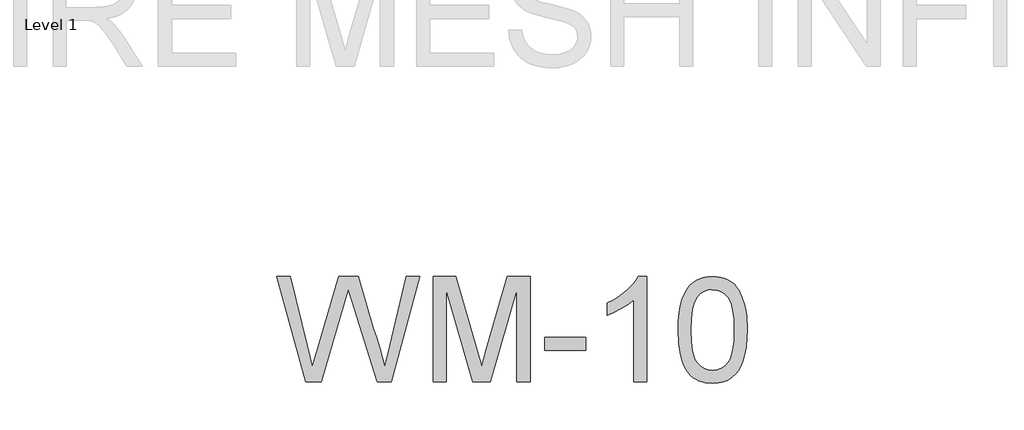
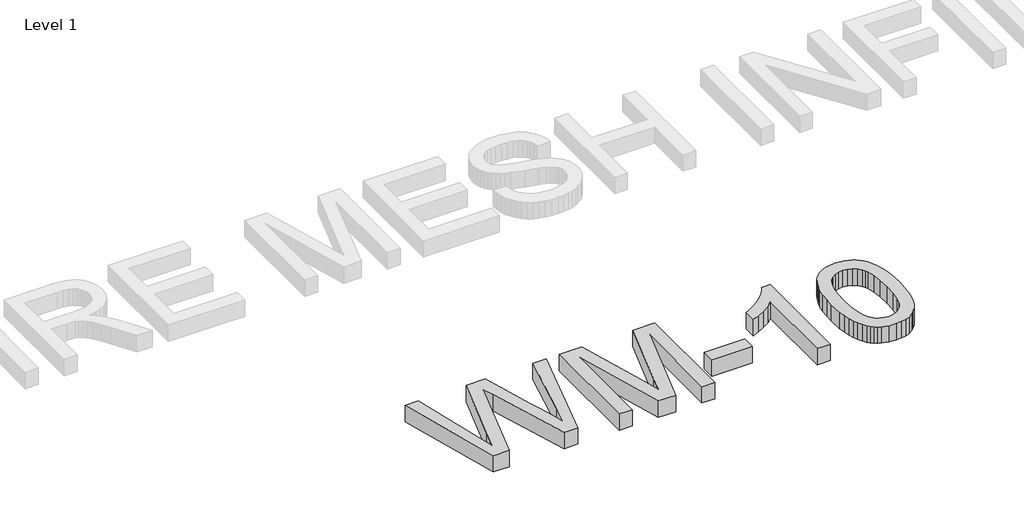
# One storey, part 3 of 8: 1 proxy.
"""IFC4 building model written with IfcOpenShell, lengths in millimetres."""

from ifc_helpers import new_model, si_unit, origin, place, context, project, spatial, faceted_brep, element, save

model = new_model("IFC4")

# Units and contexts
model_context = context("Model", 3, world=origin())
ifc_project = project(units=[si_unit("LENGTHUNIT", "METRE", prefix="MILLI")], contexts=[model_context])

# Site, building, storey
site = spatial("IfcSite", under=ifc_project)
building = spatial("IfcBuilding", under=site)
storey = spatial("IfcBuildingStorey", under=building, Name="Level 1", Elevation=0.0)

# Proxy
placement = place(None, origin())
element("IfcBuildingElementProxy", 1, Name="36\" Arial", ObjectType="36\" Arial", at=placement, inside=storey, context=model_context, shape_type="Brep", body=[
    faceted_brep([(14703.4402285, -20037.2054696, 152.4), (14841.2984786, -20037.2054696, 152.4), (15040.9475625, -19352.3756511, 152.4), (15075.3005892, -19233.9246304, 152.4), (15105.8613987, -19332.2992069, 152.4), (15324.917712, -20037.2054696, 152.4), (15446.9378783, -20037.2054696, 152.4), (15696.3319295, -19123.5041874, 152.4), (15578.5501236, -19123.5041874, 152.4), (15432.6612958, -19729.3666587, 152.4), (15389.385405, -19909.3854416, 152.4), (15370.4661447, -19825.4547513, 152.4), (15347.8383191, -19741.6355968, 152.4), (15321.5019281, -19657.9279781, 152.4), (15291.4569717, -19574.3318952, 152.4), (15159.8447264, -19123.5041874, 152.4), (14990.0872372, -19123.5041874, 152.4), (14808.9530963, -19745.427814, 152.4), (14761.2157735, -19909.3854416, 152.4), (14716.6014531, -19724.0129402, 152.4), (14572.0510549, -19123.5041874, 152.4), (14454.269249, -19123.5041874, 152.4), (14703.4402285, -20037.2054696, 0.0), (14454.269249, -19123.5041874, 0.0), (14572.0510549, -19123.5041874, 0.0), (14716.6014531, -19724.0129402, 0.0), (14761.2157735, -19909.3854416, 0.0), (14808.9530963, -19745.427814, 0.0), (14990.0872372, -19123.5041874, 0.0), (15159.8447264, -19123.5041874, 0.0), (15291.4569717, -19574.3318952, 0.0), (15321.5019281, -19657.9279781, 0.0), (15347.8383191, -19741.6355968, 0.0), (15370.4661447, -19825.4547513, 0.0), (15389.385405, -19909.3854416, 0.0), (15432.6612958, -19729.3666587, 0.0), (15578.5501236, -19123.5041874, 0.0), (15696.3319295, -19123.5041874, 0.0), (15446.9378783, -20037.2054696, 0.0), (15324.917712, -20037.2054696, 0.0), (15105.8613987, -19332.2992069, 0.0), (15075.3005892, -19233.9246304, 0.0), (15040.9475625, -19352.3756511, 0.0), (14841.2984786, -20037.2054696, 0.0)], [[[0, 1, 2, 3, 4, 5, 6, 7, 8, 9, 10, 11, 12, 13, 14, 15, 16, 17, 18, 19, 20, 21]], [[22, 23, 24, 25, 26, 27, 28, 29, 30, 31, 32, 33, 34, 35, 36, 37, 38, 39, 40, 41, 42, 43]], [[3, 2, 42, 41]], [[4, 3, 41, 40]], [[5, 4, 40, 39]], [[6, 5, 39, 38]], [[7, 6, 38, 37]], [[8, 7, 37, 36]], [[9, 8, 36, 35]], [[10, 9, 35, 34]], [[11, 10, 34, 33]], [[12, 11, 33, 32]], [[13, 12, 32, 31]], [[14, 13, 31, 30]], [[15, 14, 30, 29]], [[16, 15, 29, 28]], [[17, 16, 28, 27]], [[18, 17, 27, 26]], [[19, 18, 26, 25]], [[20, 19, 25, 24]], [[21, 20, 24, 23]], [[0, 21, 23, 22]], [[1, 0, 22, 43]], [[2, 1, 43, 42]]]),
    faceted_brep([(15810.5445898, -20037.2054696, 152.4), (15924.75725, -20037.2054696, 152.4), (15924.75725, -19237.7168476, 152.4), (16154.2979286, -20037.2054696, 152.4), (16309.1096205, -20037.2054696, 152.4), (16538.650299, -19237.7168476, 152.4), (16538.650299, -20037.2054696, 152.4), (16652.8629593, -20037.2054696, 152.4), (16652.8629593, -19123.5041874, 152.4), (16456.3368778, -19123.5041874, 152.4), (16272.5258777, -19756.3583225, 152.4), (16231.7037745, -19902.0240787, 152.4), (16194.0046738, -19767.5119026, 152.4), (16007.0706712, -19123.5041874, 152.4), (15810.5445898, -19123.5041874, 152.4), (15810.5445898, -20037.2054696, 0.0), (15810.5445898, -19123.5041874, 0.0), (16007.0706712, -19123.5041874, 0.0), (16194.0046738, -19767.5119026, 0.0), (16231.7037745, -19902.0240787, 0.0), (16272.5258777, -19756.3583225, 0.0), (16456.3368778, -19123.5041874, 0.0), (16652.8629593, -19123.5041874, 0.0), (16652.8629593, -20037.2054696, 0.0), (16538.650299, -20037.2054696, 0.0), (16538.650299, -19237.7168476, 0.0), (16309.1096205, -20037.2054696, 0.0), (16154.2979286, -20037.2054696, 0.0), (15924.75725, -19237.7168476, 0.0), (15924.75725, -20037.2054696, 0.0)], [[[0, 1, 2, 3, 4, 5, 6, 7, 8, 9, 10, 11, 12, 13, 14]], [[15, 16, 17, 18, 19, 20, 21, 22, 23, 24, 25, 26, 27, 28, 29]], [[14, 13, 17, 16]], [[0, 14, 16, 15]], [[12, 11, 19, 18]], [[13, 12, 18, 17]], [[1, 0, 15, 29]], [[2, 1, 29, 28]], [[3, 2, 28, 27]], [[4, 3, 27, 26]], [[5, 4, 26, 25]], [[6, 5, 25, 24]], [[7, 6, 24, 23]], [[8, 7, 23, 22]], [[9, 8, 22, 21]], [[10, 9, 21, 20]], [[11, 10, 20, 19]]]),
    faceted_brep([(16781.3522021, -19765.9504014, 152.4), (17138.2667655, -19765.9504014, 152.4), (17138.2667655, -19651.7377411, 152.4), (16781.3522021, -19651.7377411, 152.4), (16781.3522021, -19765.9504014, 0.0), (16781.3522021, -19651.7377411, 0.0), (17138.2667655, -19651.7377411, 0.0), (17138.2667655, -19765.9504014, 0.0)], [[[0, 1, 2, 3]], [[4, 5, 6, 7]], [[1, 0, 4, 7]], [[2, 1, 7, 6]], [[3, 2, 6, 5]], [[0, 3, 5, 4]]]),
    faceted_brep([(17666.5003192, -20037.2054696, 152.4), (17666.5003192, -19123.5041874, 152.4), (17592.8866905, -19123.5041874, 152.4), (17575.3267729, -19153.1866524, 152.4), (17552.5386145, -19183.3431446, 152.4), (17524.5222155, -19213.973664, 152.4), (17491.2775758, -19245.0782105, 152.4), (17453.9200534, -19275.2625867, 152.4), (17413.5650064, -19303.132595, 152.4), (17370.2124347, -19328.6882354, 152.4), (17323.8623384, -19351.9295079, 152.4), (17323.8623384, -19459.8961633, 152.4), (17380.5782932, -19435.8880822, 152.4), (17444.0979319, -19402.2321542, 152.4), (17504.606104, -19363.7244189, 152.4), (17552.287659, -19325.1609157, 152.4), (17552.287659, -20037.2054696, 152.4), (17666.5003192, -20037.2054696, 0.0), (17552.287659, -20037.2054696, 0.0), (17552.287659, -19325.1609157, 0.0), (17504.606104, -19363.7244189, 0.0), (17444.0979319, -19402.2321542, 0.0), (17380.5782932, -19435.8880822, 0.0), (17323.8623384, -19459.8961633, 0.0), (17323.8623384, -19351.9295079, 0.0), (17370.2124347, -19328.6882354, 0.0), (17413.5650064, -19303.132595, 0.0), (17453.9200534, -19275.2625867, 0.0), (17491.2775758, -19245.0782105, 0.0), (17524.5222155, -19213.973664, 0.0), (17552.5386145, -19183.3431446, 0.0), (17575.3267729, -19153.1866524, 0.0), (17592.8866905, -19123.5041874, 0.0), (17666.5003192, -19123.5041874, 0.0)], [[[0, 1, 2, 3, 4, 5, 6, 7, 8, 9, 10, 11, 12, 13, 14, 15, 16]], [[17, 18, 19, 20, 21, 22, 23, 24, 25, 26, 27, 28, 29, 30, 31, 32, 33]], [[1, 0, 17, 33]], [[2, 1, 33, 32]], [[3, 2, 32, 31]], [[4, 3, 31, 30]], [[5, 4, 30, 29]], [[6, 5, 29, 28]], [[7, 6, 28, 27]], [[8, 7, 27, 26]], [[9, 8, 26, 25]], [[10, 9, 25, 24]], [[11, 10, 24, 23]], [[12, 11, 23, 22]], [[13, 12, 22, 21]], [[14, 13, 21, 20]], [[15, 14, 20, 19]], [[16, 15, 19, 18]], [[0, 16, 18, 17]]]),
    faceted_brep([(17937.7553874, -19587.7161913, 152.4), (17943.4437132, -19707.296512, 152.4), (17950.5541206, -19760.7395882, 152.4), (17960.5086908, -19809.9512749, 152.4), (17973.307424, -19854.9315722, 152.4), (17988.9503201, -19895.68048, 152.4), (18007.4373791, -19932.1979984, 152.4), (18028.7686011, -19964.4841273, 152.4), (18048.6219736, -19984.8742659, 152.4), (18070.259919, -20002.5457194, 152.4), (18093.6824373, -20017.4984877, 152.4), (18118.8895283, -20029.7325709, 152.4), (18174.6574288, -20046.0446818, 152.4), (18237.5636206, -20051.4820521, 152.4), (18285.9074194, -20048.3520787, 152.4), (18329.8873799, -20038.9621584, 152.4), (18369.5035023, -20023.3122914, 152.4), (18404.7557864, -20001.4024774, 152.4), (18435.7697101, -19973.1281519, 152.4), (18462.6707511, -19938.3847498, 152.4), (18485.4589094, -19897.1722714, 152.4), (18504.1341851, -19849.4907164, 152.4), (18518.6756652, -19794.9427387, 152.4), (18529.0624367, -19733.130992, 152.4), (18535.2944995, -19664.0554762, 152.4), (18537.3718538, -19587.7161913, 152.4), (18532.1854391, -19466.5604274, 152.4), (18525.7024207, -19416.334462, 152.4), (18516.6261948, -19373.0097743, 152.4), (18492.8690692, -19299.3403777, 152.4), (18463.0890103, -19237.8283834, 152.4), (18445.0341525, -19211.735977, 152.4), (18423.6611047, -19188.8920507, 152.4), (18398.9698667, -19169.2966047, 152.4), (18370.9604387, -19152.9496388, 152.4), (18340.3717452, -19140.0672538, 152.4), (18307.9427111, -19130.8655502, 152.4), (18273.6733362, -19125.3445281, 152.4), (18237.5636206, -19123.5041874, 152.4), (18189.5126033, -19126.6132478, 152.4), (18145.7417724, -19135.9404292, 152.4), (18106.2511278, -19151.4857315, 152.4), (18071.0406697, -19173.2491546, 152.4), (18040.005833, -19201.3770895, 152.4), (18013.0420531, -19236.0159267, 152.4), (17990.1493299, -19277.1656663, 152.4), (17971.3276635, -19324.8263083, 152.4), (17956.6397927, -19379.4439958, 152.4), (17946.1484564, -19441.4648722, 152.4), (17939.8536547, -19510.8889374, 152.4), (18051.9680477, -19587.4931197, 152.4), (18055.4256575, -19490.5685086, 152.4), (18065.798487, -19410.1511961, 152.4), (18083.0865362, -19346.2411821, 152.4), (18094.3237681, -19320.476412, 152.4), (18107.289805, -19298.8384666, 152.4), (18134.2535849, -19272.0977583, 152.4), (18164.7307425, -19252.9972524, 152.4), (18198.7212779, -19241.5369488, 152.4), (18236.225191, -19237.7168476, 152.4), (18275.9598201, -19242.0528019, 152.4), (18311.7349283, -19255.0606647, 152.4), (18343.5505156, -19276.740436, 152.4), (18371.4065819, -19307.0921159, 152.4), (18383.5361002, -19326.6492215, 152.4), (18394.0483495, -19350.6329042, 152.4), (18410.2210406, -19411.880001, 152.4), (18419.9246553, -19490.8334062, 152.4), (18423.1591936, -19587.4931197, 152.4), (18419.8131195, -19686.59965, 152.4), (18409.7748974, -19766.8705718, 152.4), (18393.0445273, -19828.3058852, 152.4), (18382.1697867, -19851.9601887, 152.4), (18369.6220091, -19870.9055902, 152.4), (18341.2919156, -19899.9397534, 152.4), (18309.8388197, -19920.6784414, 152.4), (18275.2627214, -19933.1216542, 152.4), (18237.5636206, -19937.2693918, 152.4), (18199.8645199, -19933.1355962, 152.4), (18165.2884215, -19920.7342093, 152.4), (18133.8353256, -19900.0652312, 152.4), (18105.5052322, -19871.1286618, 152.4), (18092.9574546, -19852.2285718, 152.4), (18082.082714, -19828.5986667, 152.4), (18065.3523438, -19767.1494113, 152.4), (18055.3141217, -19686.7808956, 152.4), (17937.7553874, -19587.7161913, 0.0), (17939.8536547, -19510.8889374, 0.0), (17946.1484564, -19441.4648722, 0.0), (17956.6397927, -19379.4439958, 0.0), (17971.3276635, -19324.8263083, 0.0), (17990.1493299, -19277.1656663, 0.0), (18013.0420531, -19236.0159267, 0.0), (18040.005833, -19201.3770895, 0.0), (18071.0406697, -19173.2491546, 0.0), (18106.2511278, -19151.4857315, 0.0), (18145.7417724, -19135.9404292, 0.0), (18189.5126033, -19126.6132478, 0.0), (18237.5636206, -19123.5041874, 0.0), (18273.6733362, -19125.3445281, 0.0), (18307.9427111, -19130.8655502, 0.0), (18340.3717452, -19140.0672538, 0.0), (18370.9604387, -19152.9496388, 0.0), (18398.9698667, -19169.2966047, 0.0), (18423.6611047, -19188.8920507, 0.0), (18445.0341525, -19211.735977, 0.0), (18463.0890103, -19237.8283834, 0.0), (18492.8690692, -19299.3403777, 0.0), (18516.6261948, -19373.0097743, 0.0), (18525.7024207, -19416.334462, 0.0), (18532.1854391, -19466.5604274, 0.0), (18537.3718538, -19587.7161913, 0.0), (18535.2944995, -19664.0554762, 0.0), (18529.0624367, -19733.130992, 0.0), (18518.6756652, -19794.9427387, 0.0), (18504.1341851, -19849.4907164, 0.0), (18485.4589094, -19897.1722714, 0.0), (18462.6707511, -19938.3847498, 0.0), (18435.7697101, -19973.1281519, 0.0), (18404.7557864, -20001.4024774, 0.0), (18369.5035023, -20023.3122914, 0.0), (18329.8873799, -20038.9621584, 0.0), (18285.9074194, -20048.3520787, 0.0), (18237.5636206, -20051.4820521, 0.0), (18174.6574288, -20046.0446818, 0.0), (18118.8895283, -20029.7325709, 0.0), (18093.6824373, -20017.4984877, 0.0), (18070.259919, -20002.5457194, 0.0), (18048.6219736, -19984.8742659, 0.0), (18028.7686011, -19964.4841273, 0.0), (18007.4373791, -19932.1979984, 0.0), (17988.9503201, -19895.68048, 0.0), (17973.307424, -19854.9315722, 0.0), (17960.5086908, -19809.9512749, 0.0), (17950.5541206, -19760.7395882, 0.0), (17943.4437132, -19707.296512, 0.0), (18051.9680477, -19587.4931197, 0.0), (18055.3141217, -19686.7808956, 0.0), (18065.3523438, -19767.1494113, 0.0), (18082.082714, -19828.5986667, 0.0), (18092.9574546, -19852.2285718, 0.0), (18105.5052322, -19871.1286618, 0.0), (18133.8353256, -19900.0652312, 0.0), (18165.2884215, -19920.7342093, 0.0), (18199.8645199, -19933.1355962, 0.0), (18237.5636206, -19937.2693918, 0.0), (18275.2627214, -19933.1216542, 0.0), (18309.8388197, -19920.6784414, 0.0), (18341.2919156, -19899.9397534, 0.0), (18369.6220091, -19870.9055902, 0.0), (18382.1697867, -19851.9601887, 0.0), (18393.0445273, -19828.3058852, 0.0), (18409.7748974, -19766.8705718, 0.0), (18419.8131195, -19686.59965, 0.0), (18423.1591936, -19587.4931197, 0.0), (18419.9246553, -19490.8334062, 0.0), (18410.2210406, -19411.880001, 0.0), (18394.0483495, -19350.6329042, 0.0), (18383.5361002, -19326.6492215, 0.0), (18371.4065819, -19307.0921159, 0.0), (18343.5505156, -19276.740436, 0.0), (18311.7349283, -19255.0606647, 0.0), (18275.9598201, -19242.0528019, 0.0), (18236.225191, -19237.7168476, 0.0), (18198.7212779, -19241.5369488, 0.0), (18164.7307425, -19252.9972524, 0.0), (18134.2535849, -19272.0977583, 0.0), (18107.289805, -19298.8384666, 0.0), (18094.3237681, -19320.476412, 0.0), (18083.0865362, -19346.2411821, 0.0), (18065.798487, -19410.1511961, 0.0), (18055.4256575, -19490.5685086, 0.0)], [[[0, 1, 2, 3, 4, 5, 6, 7, 8, 9, 10, 11, 12, 13, 14, 15, 16, 17, 18, 19, 20, 21, 22, 23, 24, 25, 26, 27, 28, 29, 30, 31, 32, 33, 34, 35, 36, 37, 38, 39, 40, 41, 42, 43, 44, 45, 46, 47, 48, 49], [50, 51, 52, 53, 54, 55, 56, 57, 58, 59, 60, 61, 62, 63, 64, 65, 66, 67, 68, 69, 70, 71, 72, 73, 74, 75, 76, 77, 78, 79, 80, 81, 82, 83, 84, 85]], [[86, 87, 88, 89, 90, 91, 92, 93, 94, 95, 96, 97, 98, 99, 100, 101, 102, 103, 104, 105, 106, 107, 108, 109, 110, 111, 112, 113, 114, 115, 116, 117, 118, 119, 120, 121, 122, 123, 124, 125, 126, 127, 128, 129, 130, 131, 132, 133, 134, 135], [136, 137, 138, 139, 140, 141, 142, 143, 144, 145, 146, 147, 148, 149, 150, 151, 152, 153, 154, 155, 156, 157, 158, 159, 160, 161, 162, 163, 164, 165, 166, 167, 168, 169, 170, 171]], [[6, 5, 131, 130]], [[7, 6, 130, 129]], [[8, 7, 129, 128]], [[9, 8, 128, 127]], [[10, 9, 127, 126]], [[11, 10, 126, 125]], [[12, 11, 125, 124]], [[13, 12, 124, 123]], [[14, 13, 123, 122]], [[15, 14, 122, 121]], [[16, 15, 121, 120]], [[17, 16, 120, 119]], [[18, 17, 119, 118]], [[19, 18, 118, 117]], [[20, 19, 117, 116]], [[82, 81, 141, 140]], [[83, 82, 140, 139]], [[84, 83, 139, 138]], [[85, 84, 138, 137]], [[50, 85, 137, 136]], [[1, 0, 86, 135]], [[2, 1, 135, 134]], [[3, 2, 134, 133]], [[4, 3, 133, 132]], [[5, 4, 132, 131]], [[21, 20, 116, 115]], [[22, 21, 115, 114]], [[23, 22, 114, 113]], [[24, 23, 113, 112]], [[25, 24, 112, 111]], [[26, 25, 111, 110]], [[27, 26, 110, 109]], [[28, 27, 109, 108]], [[29, 28, 108, 107]], [[30, 29, 107, 106]], [[31, 30, 106, 105]], [[32, 31, 105, 104]], [[33, 32, 104, 103]], [[34, 33, 103, 102]], [[35, 34, 102, 101]], [[36, 35, 101, 100]], [[37, 36, 100, 99]], [[38, 37, 99, 98]], [[39, 38, 98, 97]], [[40, 39, 97, 96]], [[41, 40, 96, 95]], [[42, 41, 95, 94]], [[43, 42, 94, 93]], [[44, 43, 93, 92]], [[45, 44, 92, 91]], [[46, 45, 91, 90]], [[47, 46, 90, 89]], [[48, 47, 89, 88]], [[49, 48, 88, 87]], [[0, 49, 87, 86]], [[51, 50, 136, 171]], [[52, 51, 171, 170]], [[53, 52, 170, 169]], [[54, 53, 169, 168]], [[55, 54, 168, 167]], [[56, 55, 167, 166]], [[57, 56, 166, 165]], [[58, 57, 165, 164]], [[59, 58, 164, 163]], [[60, 59, 163, 162]], [[61, 60, 162, 161]], [[62, 61, 161, 160]], [[63, 62, 160, 159]], [[64, 63, 159, 158]], [[65, 64, 158, 157]], [[66, 65, 157, 156]], [[67, 66, 156, 155]], [[68, 67, 155, 154]], [[69, 68, 154, 153]], [[70, 69, 153, 152]], [[71, 70, 152, 151]], [[72, 71, 151, 150]], [[73, 72, 150, 149]], [[74, 73, 149, 148]], [[75, 74, 148, 147]], [[76, 75, 147, 146]], [[77, 76, 146, 145]], [[78, 77, 145, 144]], [[79, 78, 144, 143]], [[80, 79, 143, 142]], [[81, 80, 142, 141]]]),
])

save(model, "model.ifc")
